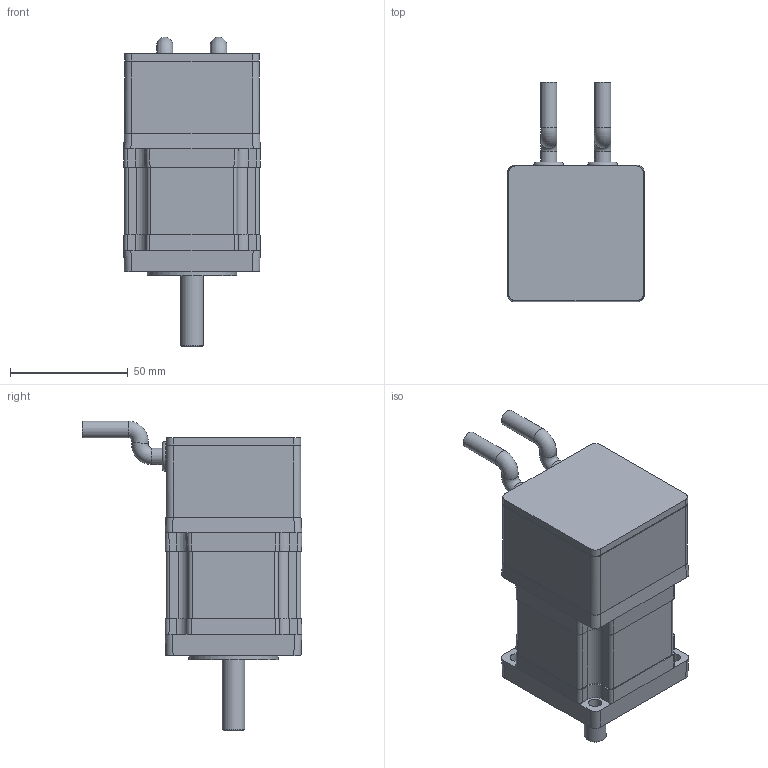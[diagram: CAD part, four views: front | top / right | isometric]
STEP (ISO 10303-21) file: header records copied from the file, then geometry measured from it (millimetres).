
FILE_DESCRIPTION((''),'2;1');
FILE_NAME('C:\CAD_work\Dummy_Modeling_Project_02-12-05\3D MODELS\BE231_CBL.stp','2005-12-20T15:18:02',('jevans'),(''),'Autodesk Inventor 10','Autodesk Inventor 10','');
FILE_SCHEMA(('AUTOMOTIVE_DESIGN { 1 0 10303 214 1 1 1 1 }'));
Length unit declared in the file: inch
Products named in the file (1): BE23_CBL
Bounding box: 57.95 x 93.11 x 131.3 mm (x, y, z)
Volume: 288992 mm3; surface area: 36315.9 mm2
Topology: 3 solids, 3 shells, 213 faces, 538 edges, 346 vertices
Faces by surface type: plane 106, cylinder 84, torus 9, cone 8, bspline 6
Full cylindrical faces by diameter (mm): 1.27 x2, 6.985 x4, 9.52 x1, 9.525 x1, 12.7 x2, 21.59 x1, 24.13 x1, 25.403 x1, 26 x1, 27.076 x1, 31.75 x3, 38.1 x1, 41.732 x1, 47.015 x1
Entity records: 6323 total; most frequent: CARTESIAN_POINT 1224, DIRECTION 1114, ORIENTED_EDGE 970, EDGE_CURVE 485, AXIS2_PLACEMENT_3D 421, VERTEX_POINT 333, EDGE_LOOP 282, VECTOR 272
